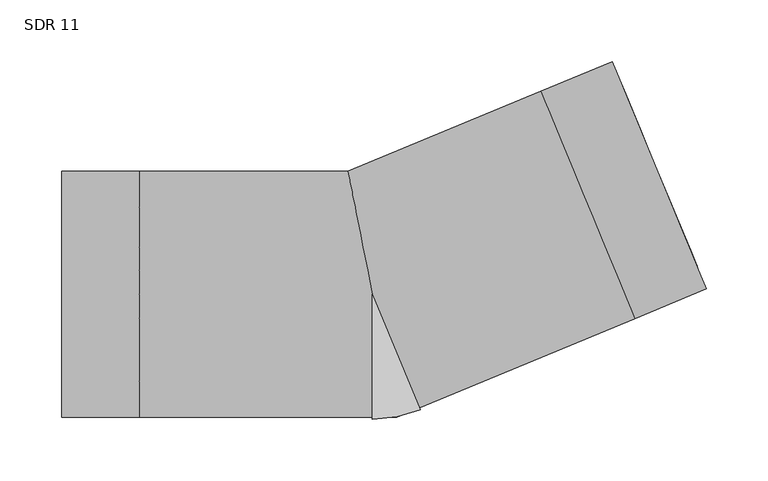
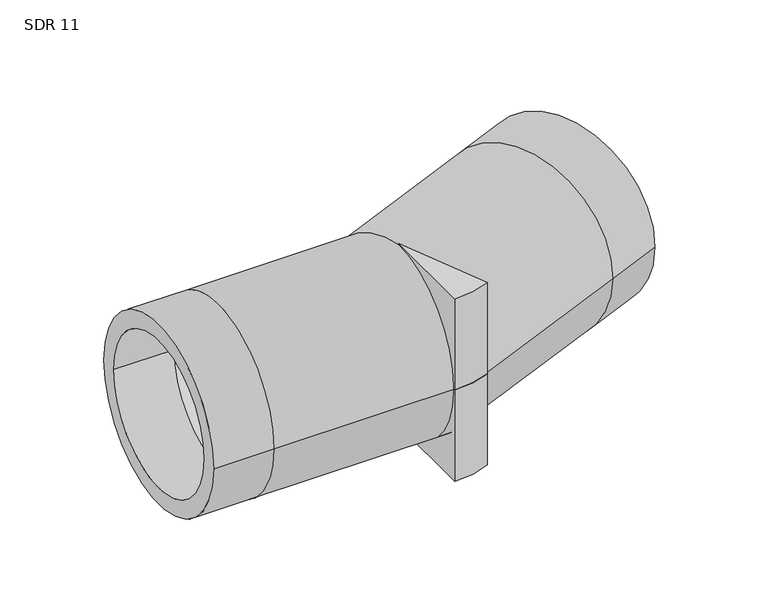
"""IFC4 building model written with IfcOpenShell, lengths in millimetres: pipe fitting geometry, Aquatherm - Elbow Blue BW Segmented : SDR 11."""

from ifc_helpers import new_model, si_unit, point, frame, origin, origin_with_axes, origin_2d, place, context, project, spatial, polyline, circle_curve, ellipse_curve, trimmed, segment, composite_curve, outline, extrude, source, transform, mapped, element, save
from ifc_brep_helpers import plane_surface, cylinder_surface, revolved_surface, advanced_brep


def sdr_11_adb093ba(model_context):
    return source(origin(), model_context, "Body", "SolidModel", [
        extrude(outline(composite_curve([segment(polyline([(0.0, -101.6), (0.0, 0.0), (38.8806367, -93.8661605)]), True, "CONTINUOUS"), segment(trimmed(circle_curve(origin_2d(), 101.6), [point((38.8806367, -93.8661605))], [point((0.0, -101.6))], False, "CARTESIAN"), True, "CONTINUOUS")], self_intersect=False)), frame((0.0, 0.0, -101.6), z_axis=(0.0, 0.0, 1.0), x_axis=(1.0, 0.0, 0.0)), (0.0, 0.0, 1.0), 101.6),
        extrude(outline(composite_curve([segment(trimmed(circle_curve(origin_2d(), 101.6), [point((38.8806367, -93.8661605))], [point((0.0, -101.6))], False, "CARTESIAN"), True, "CONTINUOUS"), segment(polyline([(0.0, -101.6), (0.0, 0.0), (38.8806367, -93.8661605)]), True, "CONTINUOUS")], self_intersect=False)), origin_with_axes(), (0.0, 0.0, 1.0), 101.6),
        advanced_brep(
        [(-252.476, -99.949, 0.0), (-252.476, 99.949, 0.0), (-252.476, -81.7764545, 0.0), (-252.476, 81.7764545, 0.0), (271.5062352, 4.2775469, 0.0), (195.0085825, 188.9592177, 0.0), (264.5519032, 21.0667897, 0.0), (201.9629145, 172.1699749, 0.0), (-189.357, -99.949, 0.0), (-189.357, 99.949, 0.0), (-189.357, -81.7764545, 0.0), (-189.357, 81.7764545, 0.0), (19.8810922, -99.949, 0.0), (-19.8810922, 99.949, 0.0), (16.2663482, -81.7764545, 0.0), (-16.2663482, 81.7764545, 0.0), (213.191883, -19.8770487, 0.0), (136.6942303, 164.8046221, 0.0), (206.2375509, -3.0878059, 0.0), (143.6485623, 148.0153793, 0.0)],
        [
            (0, 1, circle_curve(frame((-252.476, 0.0, 0.0), z_axis=(-1.0, 0.0, 0.0), x_axis=(0.0, 1.0, 0.0)), 99.949)),
            (1, 0, circle_curve(frame((-252.476, 0.0, 0.0), z_axis=(-1.0, 0.0, 0.0), x_axis=(0.0, 1.0, 0.0)), 99.949)),
            (2, 3, circle_curve(frame((-252.476, 0.0, 0.0), z_axis=(1.0, 0.0, 0.0), x_axis=(0.0, 1.0, 0.0)), 81.7764545)),
            (3, 2, circle_curve(frame((-252.476, 0.0, 0.0), z_axis=(1.0, 0.0, 0.0), x_axis=(0.0, 1.0, 0.0)), 81.7764545)),
            (4, 5, circle_curve(frame((233.2574089, 96.6183823, 0.0), z_axis=(0.923879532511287, 0.3826834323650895, 0.0), x_axis=(-0.3826834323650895, 0.923879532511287, 0.0)), 99.949)),
            (5, 4, circle_curve(frame((233.2574089, 96.6183823, 0.0), z_axis=(0.923879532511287, 0.3826834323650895, 0.0), x_axis=(-0.3826834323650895, 0.923879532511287, 0.0)), 99.949)),
            (6, 7, circle_curve(frame((233.2574089, 96.6183823, 0.0), z_axis=(-0.923879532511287, -0.3826834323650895, 0.0), x_axis=(-0.3826834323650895, 0.923879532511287, 0.0)), 81.7764545)),
            (7, 6, circle_curve(frame((233.2574089, 96.6183823, 0.0), z_axis=(-0.923879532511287, -0.3826834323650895, 0.0), x_axis=(-0.3826834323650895, 0.923879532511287, 0.0)), 81.7764545)),
            (0, 8),
            (8, 9, circle_curve(frame((-189.357, 0.0, 0.0), z_axis=(-1.0, 0.0, 0.0), x_axis=(0.0, 1.0, 0.0)), 99.949)),
            (9, 1),
            (9, 8, circle_curve(frame((-189.357, 0.0, 0.0), z_axis=(-1.0, 0.0, 0.0), x_axis=(0.0, 1.0, 0.0)), 99.949)),
            (2, 10),
            (10, 11, circle_curve(frame((-189.357, 0.0, 0.0), z_axis=(1.0, 0.0, 0.0), x_axis=(0.0, 1.0, 0.0)), 81.7764545)),
            (11, 3),
            (11, 10, circle_curve(frame((-189.357, 0.0, 0.0), z_axis=(1.0, 0.0, 0.0), x_axis=(0.0, 1.0, 0.0)), 81.7764545)),
            (8, 12),
            (12, 13, ellipse_curve(frame((0.0, 0.0, 0.0), z_axis=(-0.9807852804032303, -0.19509032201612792, 0.0), x_axis=(-0.19509032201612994, 0.9807852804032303, 0.0)), 101.9071167, 99.949)),
            (13, 9),
            (13, 12, ellipse_curve(frame((0.0, 0.0, 0.0), z_axis=(-0.9807852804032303, -0.19509032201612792, 0.0), x_axis=(-0.19509032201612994, 0.9807852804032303, 0.0)), 101.9071167, 99.949)),
            (10, 14),
            (14, 15, ellipse_curve(frame((0.0, 0.0, 0.0), z_axis=(0.9807852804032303, 0.19509032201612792, 0.0), x_axis=(0.19509032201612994, -0.9807852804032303, 0.0)), 83.37855, 81.7764545)),
            (15, 11),
            (15, 14, ellipse_curve(frame((0.0, 0.0, 0.0), z_axis=(0.9807852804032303, 0.19509032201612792, 0.0), x_axis=(0.19509032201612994, -0.9807852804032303, 0.0)), 83.37855, 81.7764545)),
            (12, 16),
            (16, 17, circle_curve(frame((174.9430566, 72.4637867, 0.0), z_axis=(-0.9238795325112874, -0.3826834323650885, 0.0), x_axis=(-0.3826834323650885, 0.9238795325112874, 0.0)), 99.949)),
            (17, 13),
            (17, 16, circle_curve(frame((174.9430566, 72.4637867, 0.0), z_axis=(-0.9238795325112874, -0.3826834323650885, 0.0), x_axis=(-0.3826834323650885, 0.9238795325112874, 0.0)), 99.949)),
            (14, 18),
            (18, 19, circle_curve(frame((174.9430566, 72.4637867, 0.0), z_axis=(0.9238795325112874, 0.3826834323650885, 0.0), x_axis=(-0.3826834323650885, 0.9238795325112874, 0.0)), 81.7764545)),
            (19, 15),
            (19, 18, circle_curve(frame((174.9430566, 72.4637867, 0.0), z_axis=(0.9238795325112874, 0.3826834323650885, 0.0), x_axis=(-0.3826834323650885, 0.9238795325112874, 0.0)), 81.7764545)),
            (16, 4),
            (5, 17),
            (18, 6),
            (7, 19),
        ],
        [
            plane_surface(frame((-252.476, 0.0, 0.0), z_axis=(-1.0, 0.0, 0.0), x_axis=(0.0, 0.0, 1.0))),
            plane_surface(frame((233.2574089, 96.6183823, 0.0), z_axis=(0.923879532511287, 0.3826834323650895, 0.0), x_axis=(0.0, 0.0, 1.0))),
            cylinder_surface(frame((-252.476, 0.0, 0.0), z_axis=(-1.0, 0.0, 0.0), x_axis=(0.0, 1.0, 0.0)), 99.949),
            revolved_surface(polyline([(-189.357, 81.7764545, 0.0), (-252.476, 81.7764545, 0.0)]), (-252.476, 0.0, 0.0), (1.0, 0.0, 0.0)),
            cylinder_surface(frame((-189.357, 0.0, 0.0), z_axis=(-1.0, 0.0, 0.0), x_axis=(0.0, 1.0, 0.0)), 99.949),
            revolved_surface(polyline([(16.26634820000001, 81.7764545, 0.0), (-189.357, 81.7764545, 0.0)]), (-189.357, 0.0, 0.0), (1.0, 0.0, 0.0)),
            cylinder_surface(frame((0.0, 0.0, 0.0), z_axis=(-0.9238795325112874, -0.3826834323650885, 0.0), x_axis=(-0.3826834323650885, 0.9238795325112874, 0.0)), 99.949),
            revolved_surface(polyline([(143.64856232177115, 148.01537924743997, 0.0), (-46.32264043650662, 69.32673060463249, 0.0)]), (0.0, 0.0, 0.0), (0.9238795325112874, 0.3826834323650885, 0.0)),
            cylinder_surface(frame((174.9430566, 72.4637867, 0.0), z_axis=(-0.923879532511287, -0.3826834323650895, 0.0), x_axis=(-0.3826834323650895, 0.923879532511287, 0.0)), 99.949),
            revolved_surface(polyline([(201.9629146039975, 172.16997485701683, 0.0), (143.64856229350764, 148.0153792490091, 0.0)]), (174.9430566, 72.4637867, 0.0), (0.923879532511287, 0.3826834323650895, 0.0)),
        ],
        [
            (0, [[1, 2], [3, 4]]),
            (1, [[5, 6], [7, 8]]),
            (2, [[-1, 9, 10, 11]]),
            (2, [[-2, -11, 12, -9]]),
            (3, [[-3, 13, 14, 15]]),
            (3, [[-4, -15, 16, -13]]),
            (4, [[-10, 17, 18, 19]]),
            (4, [[-12, -19, 20, -17]]),
            (5, [[-14, 21, 22, 23]]),
            (5, [[-16, -23, 24, -21]]),
            (6, [[-18, 25, 26, 27]]),
            (6, [[-20, -27, 28, -25]]),
            (7, [[-22, 29, 30, 31]]),
            (7, [[-24, -31, 32, -29]]),
            (8, [[-26, 33, -6, 34]]),
            (8, [[-28, -34, -5, -33]]),
            (9, [[-30, 35, -8, 36]]),
            (9, [[-32, -36, -7, -35]]),
        ],
    ),
    ])


if __name__ == "__main__":
    model = new_model("IFC4")
    model_context = context("Model", 3, world=origin())
    ifc_project = project(units=[si_unit("LENGTHUNIT", "METRE", prefix="MILLI")], contexts=[model_context])
    site = spatial("IfcSite", under=ifc_project)
    building = spatial("IfcBuilding", under=site)
    placement = place(None, origin())
    sdr_11_shape = sdr_11_adb093ba(model_context)
    element("IfcPipeFitting", 1, ObjectType="Aquatherm - Elbow Blue BW Segmented : SDR 11", at=placement, inside=building, context=model_context, shape_type="MappedRepresentation", body=[
        mapped(sdr_11_shape, transform((0.0, 0.0, 0.0), x_axis=(1.0, 0.0, 0.0), y_axis=(0.0, 1.0, 0.0), z_axis=(0.0, 0.0, 1.0))),
    ])
    save(model, "model.ifc")
